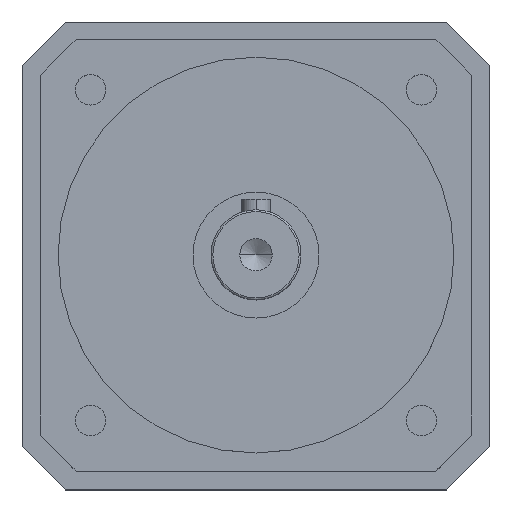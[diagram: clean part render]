
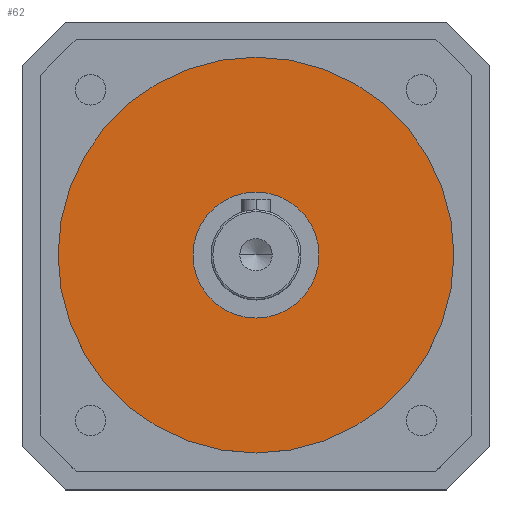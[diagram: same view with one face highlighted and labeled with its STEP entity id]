
A CAD part, top view. The second image highlights one B-rep face of the part: STEP entity #62.
In plain terms, the highlighted planar face has unit normal (0, 0, 1).
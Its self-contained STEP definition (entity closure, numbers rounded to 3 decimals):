
#62 = ADVANCED_FACE ( 'NONE', ( #818, #1759 ), #1494, .F. ) ;
#137 = EDGE_CURVE ( 'NONE', #732, #1629, #1171, .T. ) ;
#157 = DIRECTION ( 'NONE',  ( 0., 0., 1. ) ) ;
#368 = CARTESIAN_POINT ( 'NONE',  ( 55., 0., 4. ) ) ;
#454 = CARTESIAN_POINT ( 'NONE',  ( -17.5, 0., 4. ) ) ;
#488 = ORIENTED_EDGE ( 'NONE', *, *, #137, .F. ) ;
#523 = DIRECTION ( 'NONE',  ( -1., 0., 0. ) ) ;
#542 = DIRECTION ( 'NONE',  ( -1., 0., 0. ) ) ;
#549 = CIRCLE ( 'NONE', #1406, 55. ) ;
#622 = EDGE_CURVE ( 'NONE', #941, #2183, #549, .T. ) ;
#630 = AXIS2_PLACEMENT_3D ( 'NONE', #2111, #995, #2298 ) ;
#635 = DIRECTION ( 'NONE',  ( 0., 0., 1. ) ) ;
#732 = VERTEX_POINT ( 'NONE', #922 ) ;
#796 = AXIS2_PLACEMENT_3D ( 'NONE', #1273, #157, #1467 ) ;
#818 = FACE_OUTER_BOUND ( 'NONE', #1230, .T. ) ;
#868 = EDGE_LOOP ( 'NONE', ( #1638, #488 ) ) ;
#884 = DIRECTION ( 'NONE',  ( 0., 0., -1. ) ) ;
#922 = CARTESIAN_POINT ( 'NONE',  ( 17.5, 0., 4. ) ) ;
#941 = VERTEX_POINT ( 'NONE', #1537 ) ;
#995 = DIRECTION ( 'NONE',  ( 0., 0., -1. ) ) ;
#1065 = AXIS2_PLACEMENT_3D ( 'NONE', #1656, #1104, #542 ) ;
#1104 = DIRECTION ( 'NONE',  ( 0., 0., -1. ) ) ;
#1171 = CIRCLE ( 'NONE', #2070, 17.5 ) ;
#1209 = CIRCLE ( 'NONE', #796, 17.5 ) ;
#1230 = EDGE_LOOP ( 'NONE', ( #2085, #2419 ) ) ;
#1273 = CARTESIAN_POINT ( 'NONE',  ( 0., 0., 4. ) ) ;
#1406 = AXIS2_PLACEMENT_3D ( 'NONE', #2404, #884, #523 ) ;
#1467 = DIRECTION ( 'NONE',  ( -1., 0., 0. ) ) ;
#1494 = PLANE ( 'NONE',  #1065 ) ;
#1537 = CARTESIAN_POINT ( 'NONE',  ( -55., 0., 4. ) ) ;
#1562 = DIRECTION ( 'NONE',  ( -1., 0., 0. ) ) ;
#1629 = VERTEX_POINT ( 'NONE', #454 ) ;
#1638 = ORIENTED_EDGE ( 'NONE', *, *, #2171, .F. ) ;
#1656 = CARTESIAN_POINT ( 'NONE',  ( 0., 0., 4. ) ) ;
#1665 = EDGE_CURVE ( 'NONE', #2183, #941, #2101, .T. ) ;
#1759 = FACE_BOUND ( 'NONE', #868, .T. ) ;
#1888 = CARTESIAN_POINT ( 'NONE',  ( 0., 0., 4. ) ) ;
#2070 = AXIS2_PLACEMENT_3D ( 'NONE', #1888, #635, #1562 ) ;
#2085 = ORIENTED_EDGE ( 'NONE', *, *, #622, .F. ) ;
#2101 = CIRCLE ( 'NONE', #630, 55. ) ;
#2111 = CARTESIAN_POINT ( 'NONE',  ( 0., 0., 4. ) ) ;
#2171 = EDGE_CURVE ( 'NONE', #1629, #732, #1209, .T. ) ;
#2183 = VERTEX_POINT ( 'NONE', #368 ) ;
#2298 = DIRECTION ( 'NONE',  ( -1., 0., 0. ) ) ;
#2404 = CARTESIAN_POINT ( 'NONE',  ( 0., 0., 4. ) ) ;
#2419 = ORIENTED_EDGE ( 'NONE', *, *, #1665, .F. ) ;
